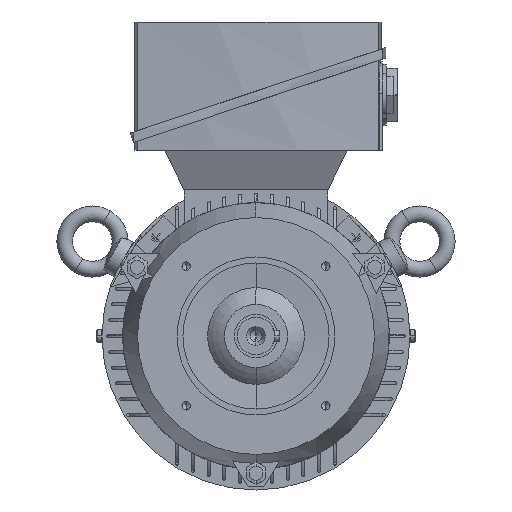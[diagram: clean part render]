
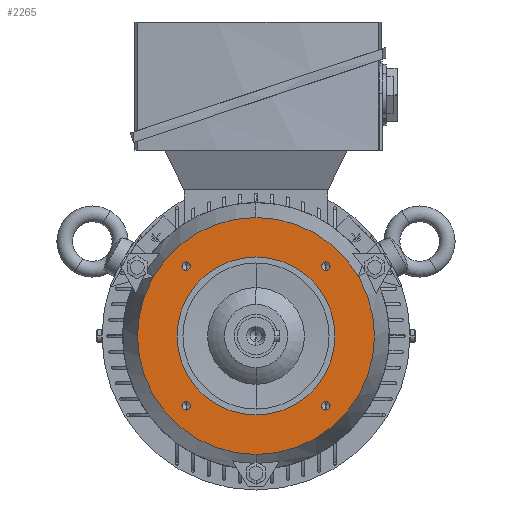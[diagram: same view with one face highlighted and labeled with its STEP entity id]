
A CAD part, left-side view. The second image highlights one B-rep face of the part: STEP entity #2265.
In plain terms, the highlighted planar face has unit normal (-1, 0, 0).
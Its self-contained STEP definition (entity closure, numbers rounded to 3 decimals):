
#2265=ADVANCED_FACE('',(#4573,#4574,#4575,#4576,#4577,#4578),#4579,.T.);
#4573=FACE_BOUND('',#6878,.T.);
#4574=FACE_BOUND('',#6879,.T.);
#4575=FACE_BOUND('',#6880,.T.);
#4576=FACE_BOUND('',#6881,.T.);
#4577=FACE_OUTER_BOUND('',#6882,.T.);
#4578=FACE_BOUND('',#6883,.T.);
#4579=PLANE('',#6884);
#6878=EDGE_LOOP('',(#14005,#14006));
#6879=EDGE_LOOP('',(#14007,#14008));
#6880=EDGE_LOOP('',(#14009,#14010));
#6881=EDGE_LOOP('',(#14011,#14012));
#6882=EDGE_LOOP('',(#14013,#14014));
#6883=EDGE_LOOP('',(#14015,#14016));
#6884=AXIS2_PLACEMENT_3D('',#14017,#14018,#14019);
#14005=ORIENTED_EDGE('',*,*,#16792,.T.);
#14006=ORIENTED_EDGE('',*,*,#14118,.T.);
#14007=ORIENTED_EDGE('',*,*,#16796,.T.);
#14008=ORIENTED_EDGE('',*,*,#14110,.T.);
#14009=ORIENTED_EDGE('',*,*,#16800,.T.);
#14010=ORIENTED_EDGE('',*,*,#14102,.T.);
#14011=ORIENTED_EDGE('',*,*,#16804,.T.);
#14012=ORIENTED_EDGE('',*,*,#14094,.T.);
#14013=ORIENTED_EDGE('',*,*,#16820,.F.);
#14014=ORIENTED_EDGE('',*,*,#14077,.F.);
#14015=ORIENTED_EDGE('',*,*,#14061,.T.);
#14016=ORIENTED_EDGE('',*,*,#16853,.T.);
#14017=CARTESIAN_POINT('',(-27.,0.0,50.));
#14018=DIRECTION('',(-1.0,-0.0,0.));
#14019=DIRECTION('',(0.,0.0,-1.0));
#14061=EDGE_CURVE('',#16899,#16903,#16905,.T.);
#14077=EDGE_CURVE('',#16928,#16931,#16932,.T.);
#14094=EDGE_CURVE('',#16964,#16961,#16965,.T.);
#14102=EDGE_CURVE('',#16977,#16974,#16978,.T.);
#14110=EDGE_CURVE('',#16990,#16987,#16991,.T.);
#14118=EDGE_CURVE('',#17003,#17000,#17004,.T.);
#16792=EDGE_CURVE('',#17000,#17003,#20973,.T.);
#16796=EDGE_CURVE('',#16987,#16990,#20977,.T.);
#16800=EDGE_CURVE('',#16974,#16977,#20981,.T.);
#16804=EDGE_CURVE('',#16961,#16964,#20985,.T.);
#16820=EDGE_CURVE('',#16931,#16928,#21006,.T.);
#16853=EDGE_CURVE('',#16903,#16899,#21045,.T.);
#16899=VERTEX_POINT('',#21269);
#16903=VERTEX_POINT('',#21274);
#16905=CIRCLE('',#21277,40.0);
#16928=VERTEX_POINT('',#21304);
#16931=VERTEX_POINT('',#21307);
#16932=CIRCLE('',#21308,60.);
#16961=VERTEX_POINT('',#21367);
#16964=VERTEX_POINT('',#21371);
#16965=CIRCLE('',#21372,2.15);
#16974=VERTEX_POINT('',#21384);
#16977=VERTEX_POINT('',#21388);
#16978=CIRCLE('',#21389,2.15);
#16987=VERTEX_POINT('',#21401);
#16990=VERTEX_POINT('',#21405);
#16991=CIRCLE('',#21406,2.15);
#17000=VERTEX_POINT('',#21418);
#17003=VERTEX_POINT('',#21422);
#17004=CIRCLE('',#21423,2.15);
#20973=CIRCLE('',#29225,2.15);
#20977=CIRCLE('',#29229,2.15);
#20981=CIRCLE('',#29233,2.15);
#20985=CIRCLE('',#29237,2.15);
#21006=CIRCLE('',#29278,60.);
#21045=CIRCLE('',#29330,40.0);
#21269=CARTESIAN_POINT('',(-27.0,0.0,40.0));
#21274=CARTESIAN_POINT('',(-27.0,0.,-40.0));
#21277=AXIS2_PLACEMENT_3D('',#29381,#29382,#29383);
#21304=CARTESIAN_POINT('',(-27.,0.,-60.));
#21307=CARTESIAN_POINT('',(-27.,0.0,60.));
#21308=AXIS2_PLACEMENT_3D('',#29409,#29410,#29411);
#21367=CARTESIAN_POINT('',(-27.0,35.355,33.205));
#21371=CARTESIAN_POINT('',(-27.,35.355,37.505));
#21372=AXIS2_PLACEMENT_3D('',#29437,#29438,#29439);
#21384=CARTESIAN_POINT('',(-27.0,35.355,-37.505));
#21388=CARTESIAN_POINT('',(-27.,35.355,-33.205));
#21389=AXIS2_PLACEMENT_3D('',#29447,#29448,#29449);
#21401=CARTESIAN_POINT('',(-27.0,-35.355,-37.505));
#21405=CARTESIAN_POINT('',(-27.,-35.355,-33.205));
#21406=AXIS2_PLACEMENT_3D('',#29457,#29458,#29459);
#21418=CARTESIAN_POINT('',(-27.0,-35.355,33.205));
#21422=CARTESIAN_POINT('',(-27.,-35.355,37.505));
#21423=AXIS2_PLACEMENT_3D('',#29467,#29468,#29469);
#29225=AXIS2_PLACEMENT_3D('',#32274,#32275,#32276);
#29229=AXIS2_PLACEMENT_3D('',#32280,#32281,#32282);
#29233=AXIS2_PLACEMENT_3D('',#32286,#32287,#32288);
#29237=AXIS2_PLACEMENT_3D('',#32292,#32293,#32294);
#29278=AXIS2_PLACEMENT_3D('',#32306,#32307,#32308);
#29330=AXIS2_PLACEMENT_3D('',#32337,#32338,#32339);
#29381=CARTESIAN_POINT('',(-27.0,0.0,0.0));
#29382=DIRECTION('',(1.0,0.0,-0.0));
#29383=DIRECTION('',(0.0,0.0,1.0));
#29409=CARTESIAN_POINT('',(-27.,0.0,0.0));
#29410=DIRECTION('',(1.0,0.0,-0.0));
#29411=DIRECTION('',(0.0,0.0,1.0));
#29437=CARTESIAN_POINT('',(-27.,35.355,35.355));
#29438=DIRECTION('',(1.0,0.0,0.));
#29439=DIRECTION('',(0.,0.0,-1.0));
#29447=CARTESIAN_POINT('',(-27.,35.355,-35.355));
#29448=DIRECTION('',(1.0,0.0,0.));
#29449=DIRECTION('',(0.,0.0,-1.0));
#29457=CARTESIAN_POINT('',(-27.,-35.355,-35.355));
#29458=DIRECTION('',(1.0,0.0,0.));
#29459=DIRECTION('',(0.,0.0,-1.0));
#29467=CARTESIAN_POINT('',(-27.,-35.355,35.355));
#29468=DIRECTION('',(1.0,0.0,0.));
#29469=DIRECTION('',(0.,0.0,-1.0));
#32274=CARTESIAN_POINT('',(-27.,-35.355,35.355));
#32275=DIRECTION('',(1.0,0.0,0.));
#32276=DIRECTION('',(0.,0.0,-1.0));
#32280=CARTESIAN_POINT('',(-27.,-35.355,-35.355));
#32281=DIRECTION('',(1.0,0.0,0.));
#32282=DIRECTION('',(0.,0.0,-1.0));
#32286=CARTESIAN_POINT('',(-27.,35.355,-35.355));
#32287=DIRECTION('',(1.0,0.0,0.));
#32288=DIRECTION('',(0.,0.0,-1.0));
#32292=CARTESIAN_POINT('',(-27.,35.355,35.355));
#32293=DIRECTION('',(1.0,0.0,0.));
#32294=DIRECTION('',(0.,0.0,-1.0));
#32306=CARTESIAN_POINT('',(-27.,0.0,0.0));
#32307=DIRECTION('',(1.0,0.0,-0.0));
#32308=DIRECTION('',(0.0,0.0,1.0));
#32337=CARTESIAN_POINT('',(-27.0,0.0,0.0));
#32338=DIRECTION('',(1.0,0.0,-0.0));
#32339=DIRECTION('',(0.0,0.0,1.0));
